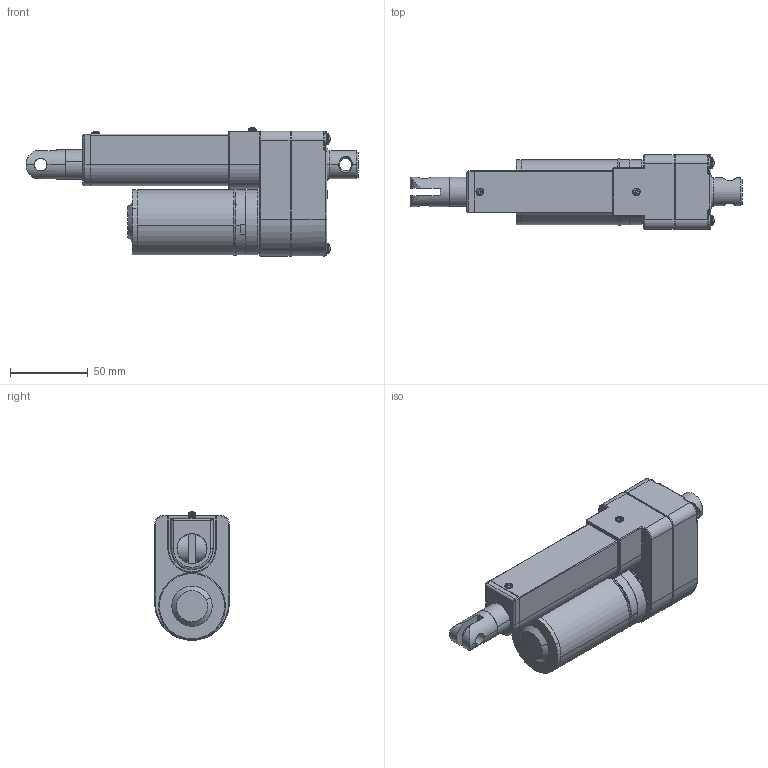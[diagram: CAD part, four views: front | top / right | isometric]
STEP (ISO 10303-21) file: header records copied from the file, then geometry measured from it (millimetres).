
FILE_DESCRIPTION (( 'STEP AP203' ), '1' );
FILE_NAME ('LAS2組合圖_Stroke=50.STEP', '2011-05-16T07:56:05', ( 'MH0164' ), ( '' ), 'SwSTEP 2.0', 'SolidWorks 2009', '' );
FILE_SCHEMA (( 'CONFIG_CONTROL_DESIGN' ));
Length unit declared in the file: millimetre
Products named in the file (1): LAS2組合圖_Stroke=50
Bounding box: 213.4 x 48 x 82.79 mm (x, y, z)
Surface area: 66089.8 mm2 (no closed solid volume)
Topology: 0 solids, 31 shells, 441 faces, 1547 edges, 1072 vertices
Faces by surface type: plane 185, cylinder 98, torus 75, bspline 62, cone 13, sphere 8
Entity records: 21160 total; most frequent: CARTESIAN_POINT 8504, ORIENTED_EDGE 2464, DIRECTION 2461, EDGE_CURVE 1529, VERTEX_POINT 1070, AXIS2_PLACEMENT_3D 845, VECTOR 771, LINE 771
